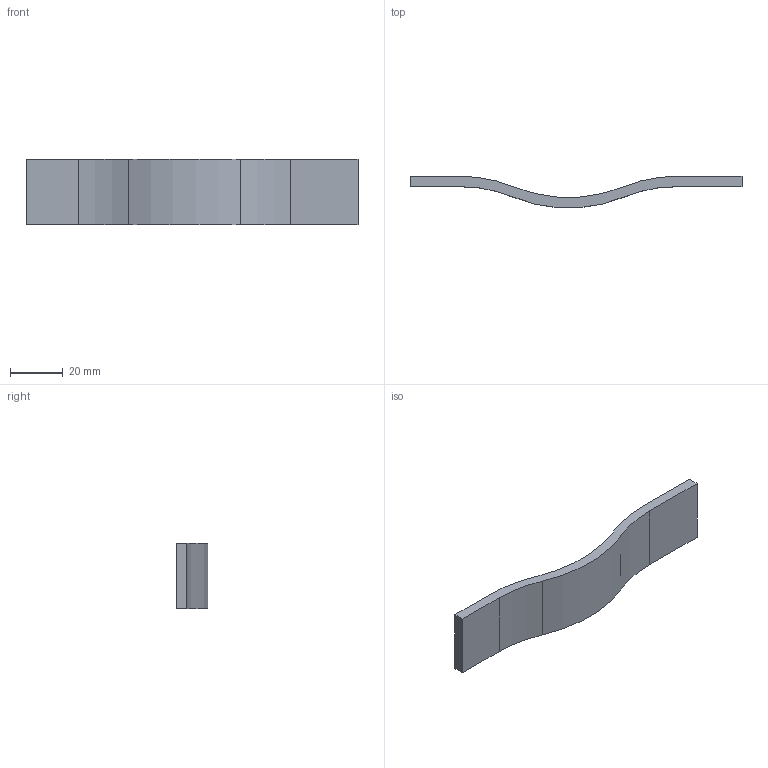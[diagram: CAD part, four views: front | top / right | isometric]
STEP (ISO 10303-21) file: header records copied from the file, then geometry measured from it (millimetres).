
FILE_DESCRIPTION( ( '' ), '1' );
FILE_NAME( 'D:/1.AUTOCAD EXPORT/Group 10/sheet_10_1/9071842.stp', '2013-10-18T04:38:50', ( '' ), ( '' ), ' ', ' ', ' ' );
FILE_SCHEMA( ( 'automotive_design' ) );
Length unit declared in the file: millimetre
Products named in the file (1): 1
Bounding box: 126 x 11.9 x 25 mm (x, y, z)
Volume: 12377.7 mm3; surface area: 7722.7 mm2
Topology: 1 solids, 1 shells, 20 faces, 48 edges, 32 vertices
Faces by surface type: cylinder 10, plane 10
Entity records: 1176 total; most frequent: DIRECTION 110, STYLED_ITEM 101, PRESENTATION_STYLE_ASSIGNMENT 101, CARTESIAN_POINT 101, COLOUR_RGB 101, ORIENTED_EDGE 96, EDGE_CURVE 48, CURVE_STYLE 48
